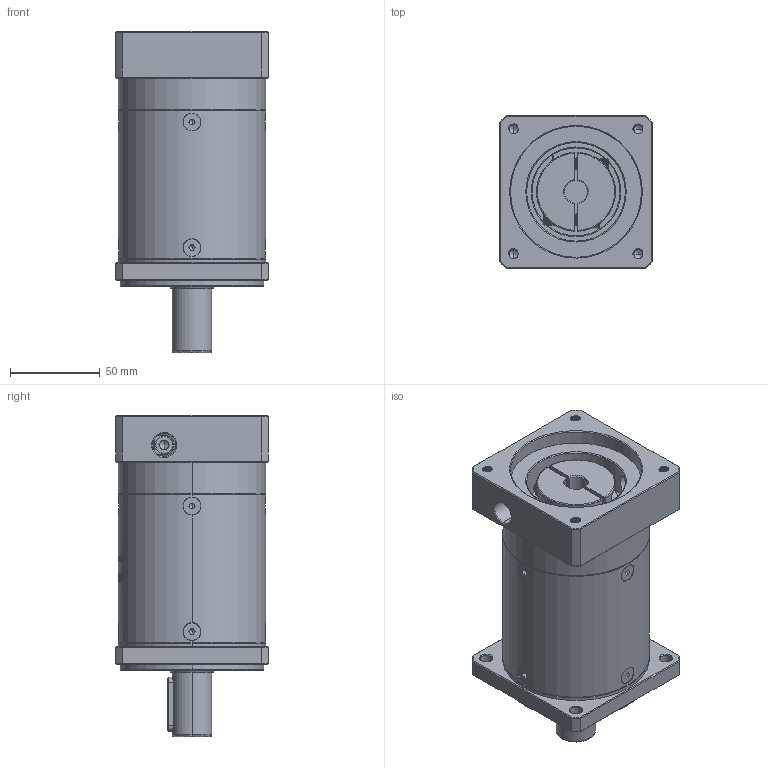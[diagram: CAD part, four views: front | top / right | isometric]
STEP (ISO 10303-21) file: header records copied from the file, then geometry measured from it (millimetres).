
FILE_DESCRIPTION (( 'STEP AP214' ), '1' );
FILE_NAME ('ZF80-D22-L3-12.7-73-69.5X69.5-M6.step', '2022-05-08T09:18:40', ( '' ), ( 'Microsoft' ), 'SwSTEP 2.0', 'SolidWorks 2016', '' );
FILE_SCHEMA (( 'AUTOMOTIVE_DESIGN' ));
Length unit declared in the file: millimetre
Products named in the file (1): ZF80-D22-L3-12.7-73-69.5X69.5-M6
Bounding box: 85 x 85 x 179 mm (x, y, z)
Volume: 752980.4 mm3; surface area: 99512.9 mm2
Topology: 13 solids, 13 shells, 1980 faces, 5122 edges, 3236 vertices
Faces by surface type: plane 896, cylinder 408, cone 339, bspline 320, torus 17
Entity records: 107804 total; most frequent: CARTESIAN_POINT 41338, ORIENTED_EDGE 10184, DIRECTION 8026, EDGE_CURVE 5092, VERTEX_POINT 3236, VECTOR 2766, LINE 2766, AXIS2_PLACEMENT_3D 2630
